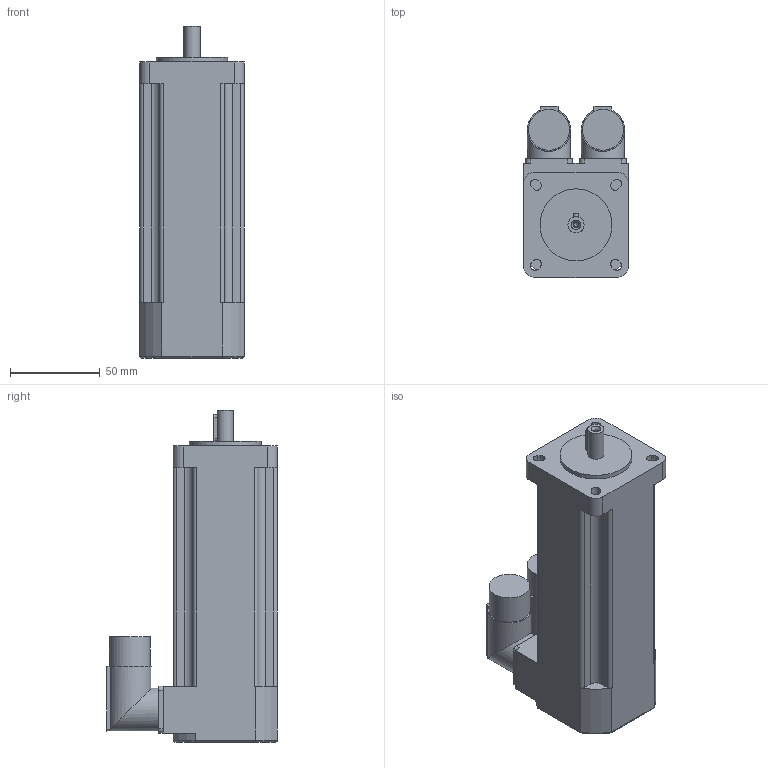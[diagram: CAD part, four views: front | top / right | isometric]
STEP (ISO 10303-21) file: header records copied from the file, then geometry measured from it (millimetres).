
FILE_DESCRIPTION(/* description */ (''),/* implementation_level */ '2;1');
FILE_NAME(/* name */ 'C:\Users\Pastrello_Ylenia\Desktop\Modelli 3D Serad\B28Q\Resolver\Resolver Brake\B28E2Qxx6B052000.stp',/* time_stamp */ '2015-06-10T17:05:15+02:00',/* author */ ('Pastrello_Ylenia'),/* organization */ (''),/* preprocessor_version */ 'ST-DEVELOPER v15.6',/* originating_system */ 'Autodesk Inventor 2015',/* authorisation */ '');
FILE_SCHEMA (('AUTOMOTIVE_DESIGN { 1 0 10303 214 3 1 1 }'));
Length unit declared in the file: millimetre
Products named in the file (1): B28E2Qxx6B052000
Bounding box: 58 x 95 x 184.5 mm (x, y, z)
Volume: 555575.9 mm3; surface area: 55281.2 mm2
Topology: 1 solids, 1 shells, 140 faces, 374 edges, 243 vertices
Faces by surface type: plane 72, cylinder 62, torus 4, cone 2
Full cylindrical faces by diameter (mm): 2.5 x1, 3.2 x1, 9 x1, 22.7 x2, 24 x2, 40 x1
Entity records: 4441 total; most frequent: CARTESIAN_POINT 879, DIRECTION 757, ORIENTED_EDGE 722, EDGE_CURVE 360, AXIS2_PLACEMENT_3D 268, VERTEX_POINT 240, LINE 221, VECTOR 221
